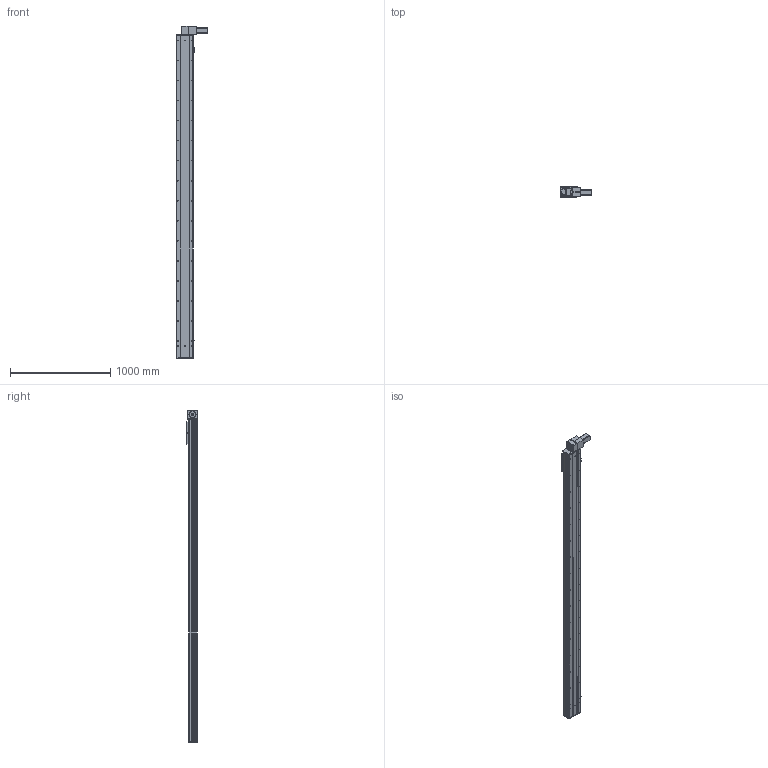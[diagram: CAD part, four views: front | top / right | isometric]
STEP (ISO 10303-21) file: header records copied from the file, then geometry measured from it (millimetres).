
FILE_DESCRIPTION (( 'STEP AP203' ), '1' );
FILE_NAME ('Y170CB-D105-S2900-BD-P400W.STEP', '2020-02-20T09:22:01', ( '微软用户' ), ( '微软中国' ), 'SwSTEP 2.0', 'SolidWorks 2017', '' );
FILE_SCHEMA (( 'CONFIG_CONTROL_DESIGN' ));
Length unit declared in the file: millimetre
Products named in the file (16): Y1埴倛裔; 70CB-耜裔啣-; 70B喘謫眊----; 70C--詩湍揤踡え-; 0B薊粣ん眊-400W--; 70CB--耜裔; Y170CB-D105-S2900-BD-P400W; 70C-雄赽釱-奻-; 0C--雄赽釱俋欶-170; B-源倛裔啣; 70CB-詩湍--; san松下电机400不带刹车----; Y100-135俋离換覜ん--; 70CB-掛极-; Y170CB-陔俋离換覜結え---; --70CB --喘謫眊楊擘啣-
Assembly tree (19 placements, depth 2):
  Y170CB-D105-S2900-BD-P400W
    B-源倛裔啣
    san松下电机400不带刹车----
    70CB-掛极-
    --70CB --喘謫眊楊擘啣-
    70CB-耜裔啣-  x2
    70C--詩湍揤踡え-  x2
    70CB--耜裔
    70C-雄赽釱-奻-
    0C--雄赽釱俋欶-170
    70CB-詩湍--
    Y100-135俋离換覜ん--  x3
    Y170CB-陔俋离換覜結え---
    Y1埴倛裔
    70B喘謫眊----
    0B薊粣ん眊-400W--
Bounding box: 313.5 x 107 x 3316 mm (x, y, z)
Volume: 14307173.5 mm3; surface area: 5039957.1 mm2
Topology: 19 solids, 19 shells, 1000 faces, 2666 edges, 1768 vertices
Faces by surface type: cylinder 554, plane 422, cone 24
Entity records: 31639 total; most frequent: CARTESIAN_POINT 5926, DIRECTION 5151, ORIENTED_EDGE 4814, EDGE_CURVE 2407, AXIS2_PLACEMENT_3D 1921, VERTEX_POINT 1598, LINE 1309, VECTOR 1309
